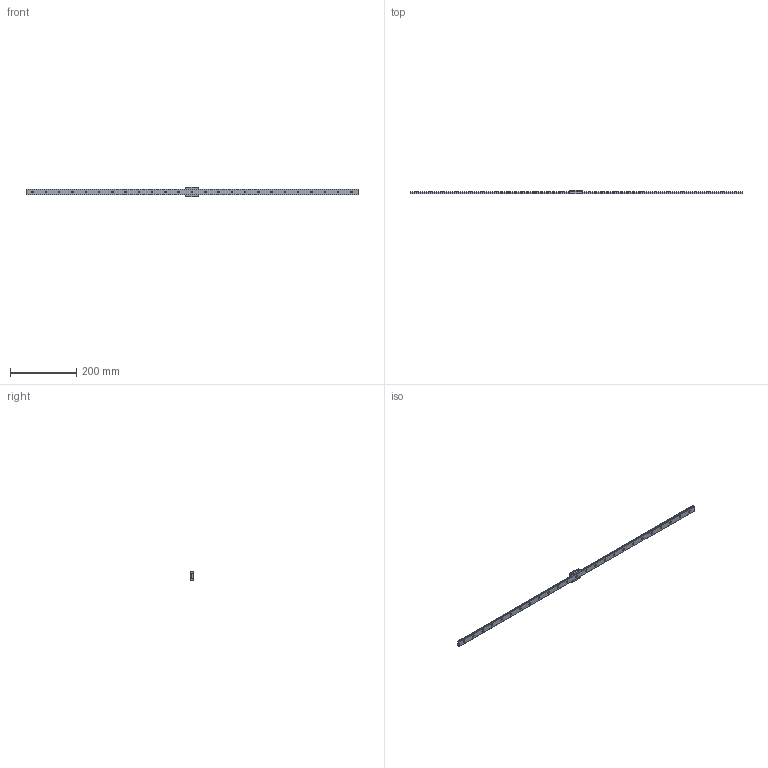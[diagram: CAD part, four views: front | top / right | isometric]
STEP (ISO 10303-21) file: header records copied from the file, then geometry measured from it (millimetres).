
FILE_DESCRIPTION( ( '' ), '1' );
FILE_NAME( 'C:/Users/v3-771-32344/Documents/Website 2016/STEP/SHW12CRM1UU1000200481.5000.stp', '2016-11-10T12:44:56', ( '' ), ( '' ), ' ', ' ', ' ' );
FILE_SCHEMA( ( 'CONFIG_CONTROL_DESIGN' ) );
Length unit declared in the file: millimetre
Products named in the file (2): 1; 2
Bounding box: 1000 x 12 x 30 mm (x, y, z)
Volume: 110720.4 mm3; surface area: 56294.1 mm2
Topology: 2 solids, 2 shells, 273 faces, 702 edges, 456 vertices
Faces by surface type: cylinder 146, plane 111, cone 16
Entity records: 8524 total; most frequent: DIRECTION 1552, CARTESIAN_POINT 1425, ORIENTED_EDGE 1388, EDGE_CURVE 694, AXIS2_PLACEMENT_3D 583, VERTEX_POINT 456, LINE 386, VECTOR 386
